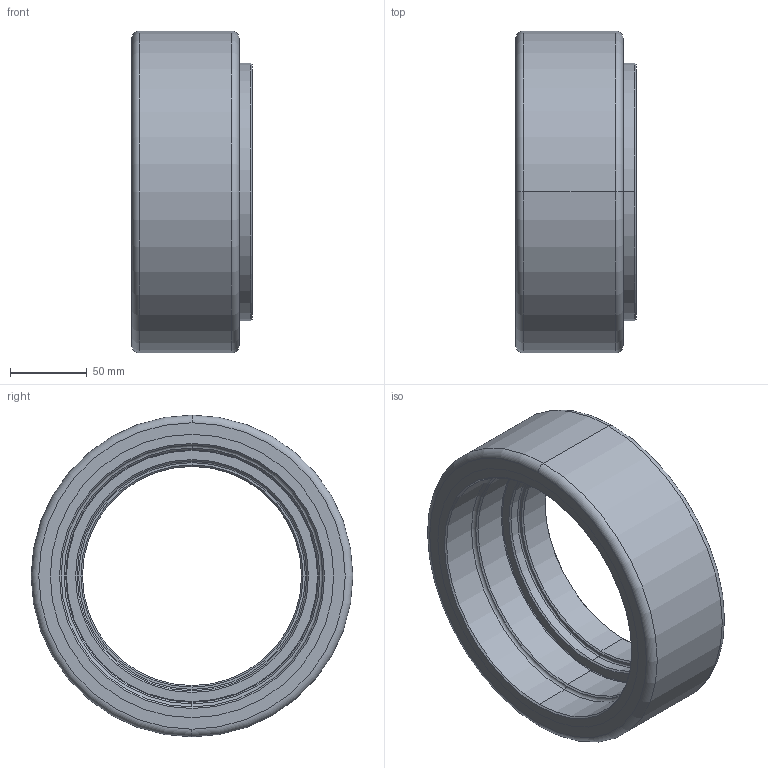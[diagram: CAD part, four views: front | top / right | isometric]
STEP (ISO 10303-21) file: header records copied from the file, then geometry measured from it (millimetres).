
FILE_DESCRIPTION (( 'STEP AP214' ), '1' );
FILE_NAME ('12036308280340.STEP', '2026-04-03T11:37:57', ( '20241006' ), ( '' ), 'SwSTEP 2.0', 'SolidWorks 2021', '' );
FILE_SCHEMA (( 'AUTOMOTIVE_DESIGN' ));
Length unit declared in the file: millimetre
Products named in the file (1): 12036308280340
Bounding box: 78.5 x 210 x 210 mm (x, y, z)
Volume: 1026927.8 mm3; surface area: 123686.1 mm2
Topology: 1 solids, 1 shells, 89 faces, 190 edges, 102 vertices
Faces by surface type: cylinder 36, cone 36, torus 10, plane 7
Entity records: 2424 total; most frequent: DIRECTION 464, CARTESIAN_POINT 370, ORIENTED_EDGE 356, AXIS2_PLACEMENT_3D 196, EDGE_CURVE 178, CIRCLE 106, VERTEX_POINT 102, EDGE_LOOP 102
